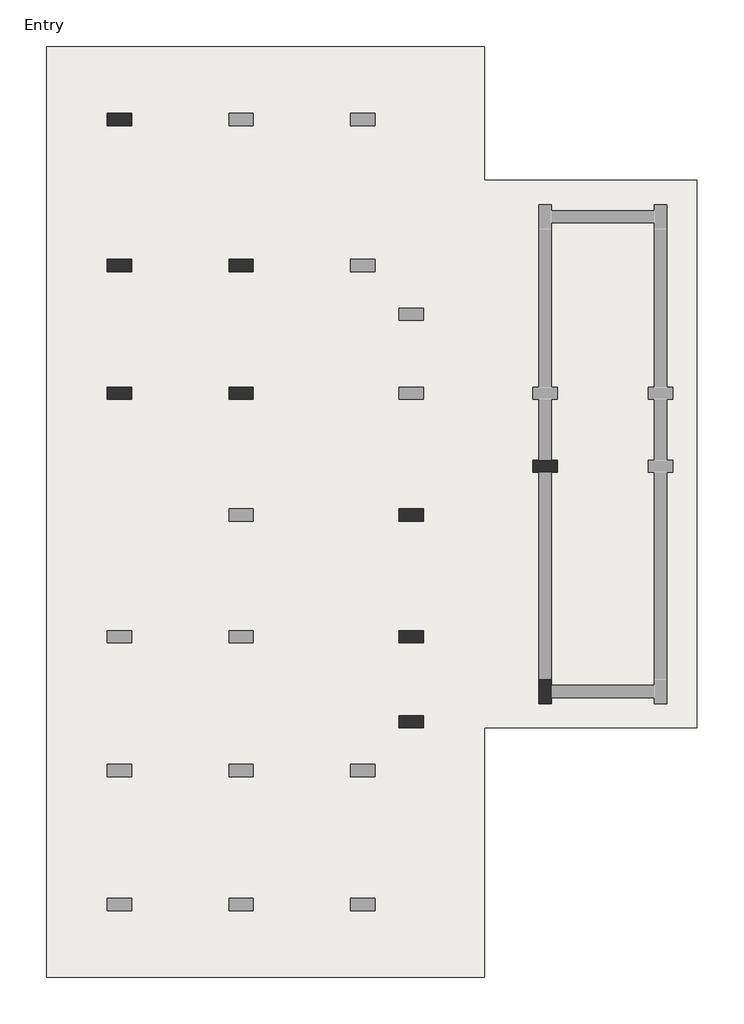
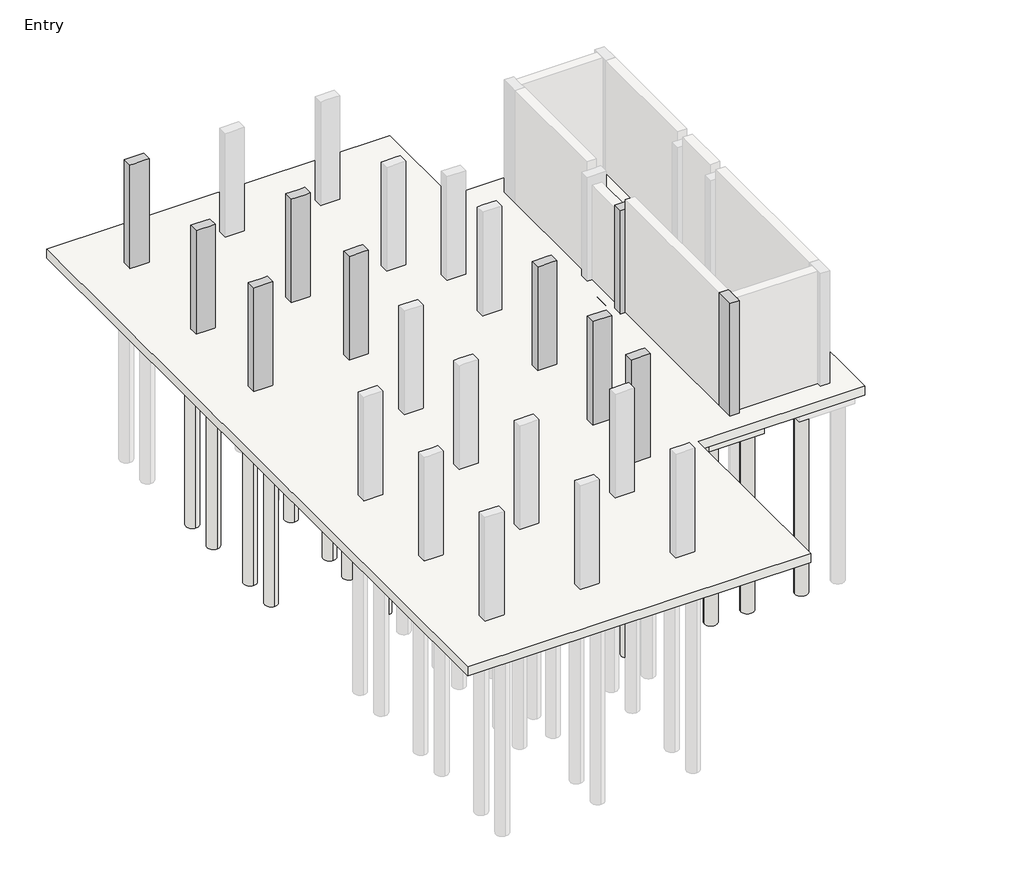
# One storey, part 2 of 3: 35 slabs, 10 columns, 1 footing.
"""IFC4 building model written with IfcOpenShell, lengths in millimetres."""

from ifc_helpers import new_model, si_unit, point, frame, frame_2d, origin, place, context, project, spatial, polyline, circle_curve, trimmed, segment, composite_curve, outline, extrude, faceted_brep, element, save

model = new_model("IFC4")

# Units and contexts
model_context = context("Model", 3, world=origin())
ifc_project = project(units=[si_unit("LENGTHUNIT", "METRE", prefix="MILLI")], contexts=[model_context])

# Site, building, storey
site = spatial("IfcSite", under=ifc_project)
building = spatial("IfcBuilding", under=site)
storey = spatial("IfcBuildingStorey", under=building, Name="Entry", Elevation=0.0)

# Columns
placement = place(None, origin())
element("IfcColumn", 1, ObjectType="Concrete-Rectangular-Column : 12 x 24", at=placement, inside=storey, context=model_context, shape_type="Brep", body=[
    faceted_brep([(-13471.1073204, 23769.0572372, 0.0), (-12861.5073204, 23769.0572372, 0.0), (-12861.5073204, 23464.2572372, 0.0), (-13471.1073204, 23464.2572372, 0.0), (-13471.1073204, 23769.0572372, 3505.2), (-12861.5073204, 23769.0572372, 3505.2), (-12861.5073204, 23769.0572372, 2895.6), (-12861.5073204, 23464.2572372, 3505.2), (-12861.5073204, 23464.2572372, 2895.6), (-13013.9073204, 23464.2572372, 3505.2), (-13318.7073204, 23464.2572372, 3505.2), (-13471.1073204, 23464.2572372, 3505.2)], [[[0, 1, 2, 3]], [[4, 5, 6, 1, 0]], [[5, 7, 8, 2, 1, 6]], [[7, 9, 10, 11, 3, 2, 8]], [[11, 4, 0, 3]], [[4, 11, 10, 9, 7, 5]]]),
])
element("IfcColumn", 2, ObjectType="Concrete-Rectangular-Column : 12 x 24", at=placement, inside=storey, context=model_context, shape_type="Brep", body=[
    faceted_brep([(-13471.1073204, 20111.4572372, 0.0), (-12861.5073204, 20111.4572372, 0.0), (-12861.5073204, 19806.6572372, 0.0), (-13471.1073204, 19806.6572372, 0.0), (-13471.1073204, 20111.4572372, 3505.2), (-13318.7073204, 20111.4572372, 3505.2), (-13013.9073204, 20111.4572372, 3505.2), (-12861.5073204, 20111.4572372, 3505.2), (-12861.5073204, 20111.4572372, 2895.6), (-12861.5073204, 19806.6572372, 3505.2), (-12861.5073204, 19806.6572372, 2895.6), (-13013.9073204, 19806.6572372, 3505.2), (-13318.7073204, 19806.6572372, 3505.2), (-13471.1073204, 19806.6572372, 3505.2)], [[[0, 1, 2, 3]], [[4, 5, 6, 7, 8, 1, 0]], [[7, 9, 10, 2, 1, 8]], [[9, 11, 12, 13, 3, 2, 10]], [[13, 4, 0, 3]], [[4, 13, 12, 11, 9, 7, 6, 5]]]),
])
element("IfcColumn", 3, ObjectType="Concrete-Rectangular-Column : 12 x 24", at=placement, inside=storey, context=model_context, shape_type="Brep", body=[
    faceted_brep([(-10423.1073204, 20111.4572372, 0.0), (-9813.5073204, 20111.4572372, 0.0), (-9813.5073204, 19806.6572372, 0.0), (-10423.1073204, 19806.6572372, 0.0), (-10423.1073204, 20111.4572372, 3505.2), (-10270.7073204, 20111.4572372, 3505.2), (-9965.9073204, 20111.4572372, 3505.2), (-9813.5073204, 20111.4572372, 3505.2), (-9813.5073204, 20111.4572372, 2895.6), (-10423.1073204, 20111.4572372, 2895.6), (-9813.5073204, 19806.6572372, 3505.2), (-9813.5073204, 19806.6572372, 2895.6), (-9965.9073204, 19806.6572372, 3505.2), (-10270.7073204, 19806.6572372, 3505.2), (-10423.1073204, 19806.6572372, 3505.2), (-10423.1073204, 19806.6572372, 2895.6)], [[[0, 1, 2, 3]], [[4, 5, 6, 7, 8, 1, 0, 9]], [[7, 10, 11, 2, 1, 8]], [[10, 12, 13, 14, 15, 3, 2, 11]], [[14, 4, 9, 0, 3, 15]], [[4, 14, 13, 12, 10, 7, 6, 5]]]),
])
element("IfcColumn", 4, ObjectType="Concrete-Rectangular-Column : 12 x 24", at=placement, inside=storey, context=model_context, shape_type="Brep", body=[
    faceted_brep([(-13471.1073204, 16911.0572372, 0.0), (-12861.5073204, 16911.0572372, 0.0), (-12861.5073204, 16606.2572372, 0.0), (-13471.1073204, 16606.2572372, 0.0), (-13471.1073204, 16911.0572372, 3505.2), (-13318.7073204, 16911.0572372, 3505.2), (-13013.9073204, 16911.0572372, 3505.2), (-12861.5073204, 16911.0572372, 3505.2), (-12861.5073204, 16911.0572372, 2895.6), (-12861.5073204, 16606.2572372, 3505.2), (-12861.5073204, 16606.2572372, 2895.6), (-13471.1073204, 16606.2572372, 3505.2)], [[[0, 1, 2, 3]], [[4, 5, 6, 7, 8, 1, 0]], [[7, 9, 10, 2, 1, 8]], [[9, 11, 3, 2, 10]], [[11, 4, 0, 3]], [[4, 11, 9, 7, 6, 5]]]),
])
element("IfcColumn", 5, ObjectType="Concrete-Rectangular-Column : 12 x 24", at=placement, inside=storey, context=model_context, shape_type="Brep", body=[
    faceted_brep([(-10423.1073204, 16911.0572372, 0.0), (-9813.5073204, 16911.0572372, 0.0), (-9813.5073204, 16606.2572372, 0.0), (-10423.1073204, 16606.2572372, 0.0), (-10423.1073204, 16911.0572372, 3505.2), (-10270.7073204, 16911.0572372, 3505.2), (-9965.9073204, 16911.0572372, 3505.2), (-9813.5073204, 16911.0572372, 3505.2), (-9813.5073204, 16911.0572372, 2895.6), (-10423.1073204, 16911.0572372, 2895.6), (-9813.5073204, 16606.2572372, 3505.2), (-9813.5073204, 16606.2572372, 2895.6), (-9965.9073204, 16606.2572372, 3505.2), (-10270.7073204, 16606.2572372, 3505.2), (-10423.1073204, 16606.2572372, 3505.2), (-10423.1073204, 16606.2572372, 2895.6)], [[[0, 1, 2, 3]], [[4, 5, 6, 7, 8, 1, 0, 9]], [[7, 10, 11, 2, 1, 8]], [[10, 12, 13, 14, 15, 3, 2, 11]], [[14, 4, 9, 0, 3, 15]], [[4, 14, 13, 12, 10, 7, 6, 5]]]),
])
element("IfcColumn", 6, ObjectType="Concrete-Rectangular-Column : 12 x 24", at=placement, inside=storey, context=model_context, shape_type="Brep", body=[
    faceted_brep([(-2803.8500241, 15082.2572372, 0.0), (-2651.4500241, 15082.2572372, 0.0), (-2346.6500241, 15082.2572372, 0.0), (-2194.2500241, 15082.2572372, 0.0), (-2194.2500241, 14777.4572372, 0.0), (-2346.6500241, 14777.4572372, 0.0), (-2651.4500241, 14777.4572372, 0.0), (-2803.8500241, 14777.4572372, 0.0), (-2803.8500241, 15082.2572372, 3505.2), (-2194.2500241, 15082.2572372, 3505.2), (-2194.2500241, 14777.4572372, 3505.2), (-2803.8500241, 14777.4572372, 3505.2)], [[[0, 1, 2, 3, 4, 5, 6, 7]], [[3, 2, 1, 0, 8, 9]], [[4, 3, 9, 10]], [[7, 6, 5, 4, 10, 11]], [[0, 7, 11, 8]], [[9, 8, 11, 10]]]),
])
element("IfcColumn", 7, ObjectType="Concrete-Rectangular-Column : 12 x 24", at=placement, inside=storey, context=model_context, shape_type="Brep", body=[
    faceted_brep([(-6156.6500241, 13863.0572372, 0.0), (-5547.0500241, 13863.0572372, 0.0), (-5547.0500241, 13558.2572372, 0.0), (-6156.6500241, 13558.2572372, 0.0), (-6156.6500241, 13863.0572372, 3505.2), (-6004.2500241, 13863.0572372, 3505.2), (-5699.4500241, 13863.0572372, 3505.2), (-5547.0500241, 13863.0572372, 3505.2), (-6156.6500241, 13863.0572372, 2895.6), (-5547.0500241, 13558.2572372, 3505.2), (-5699.4500241, 13558.2572372, 3505.2), (-6004.2500241, 13558.2572372, 3505.2), (-6156.6500241, 13558.2572372, 3505.2), (-6156.6500241, 13558.2572372, 2895.6)], [[[0, 1, 2, 3]], [[4, 5, 6, 7, 1, 0, 8]], [[7, 9, 2, 1]], [[9, 10, 11, 12, 13, 3, 2]], [[12, 4, 8, 0, 3, 13]], [[4, 12, 11, 10, 9, 7, 6, 5]]]),
])
element("IfcColumn", 8, ObjectType="Concrete-Rectangular-Column : 12 x 24", at=placement, inside=storey, context=model_context, shape_type="Brep", body=[
    faceted_brep([(-6156.6500241, 10815.0572372, 0.0), (-5547.0500241, 10815.0572372, 0.0), (-5547.0500241, 10510.2572372, 0.0), (-6156.6500241, 10510.2572372, 0.0), (-6156.6500241, 10815.0572372, 3505.2), (-6004.2500241, 10815.0572372, 3505.2), (-5699.4500241, 10815.0572372, 3505.2), (-5547.0500241, 10815.0572372, 3505.2), (-6156.6500241, 10815.0572372, 2895.6), (-5547.0500241, 10510.2572372, 3505.2), (-5699.4500241, 10510.2572372, 3505.2), (-6004.2500241, 10510.2572372, 3505.2), (-6156.6500241, 10510.2572372, 3505.2), (-6156.6500241, 10510.2572372, 2895.6)], [[[0, 1, 2, 3]], [[4, 5, 6, 7, 1, 0, 8]], [[7, 9, 2, 1]], [[9, 10, 11, 12, 13, 3, 2]], [[12, 4, 8, 0, 3, 13]], [[4, 12, 11, 10, 9, 7, 6, 5]]]),
])
element("IfcColumn", 9, ObjectType="Concrete-Rectangular-Column : 12 x 24", at=placement, inside=storey, context=model_context, shape_type="Brep", body=[
    faceted_brep([(-6156.6500241, 8681.4572372, 0.0), (-5547.0500241, 8681.4572372, 0.0), (-5547.0500241, 8376.6572372, 0.0), (-6156.6500241, 8376.6572372, 0.0), (-6156.6500241, 8681.4572372, 3505.2), (-6004.2500241, 8681.4572372, 3505.2), (-5699.4500241, 8681.4572372, 3505.2), (-5547.0500241, 8681.4572372, 3505.2), (-6156.6500241, 8681.4572372, 2895.6), (-5547.0500241, 8376.6572372, 3505.2), (-6156.6500241, 8376.6572372, 3505.2), (-6156.6500241, 8376.6572372, 2895.6)], [[[0, 1, 2, 3]], [[4, 5, 6, 7, 1, 0, 8]], [[7, 9, 2, 1]], [[9, 10, 11, 3, 2]], [[10, 4, 8, 0, 3, 11]], [[4, 10, 9, 7, 6, 5]]]),
])
element("IfcColumn", 10, ObjectType="Concrete-Rectangular-Column : 12 x 24", at=placement, inside=storey, context=model_context, shape_type="Brep", body=[
    faceted_brep([(-2346.6500241, 9595.8572372, 0.0), (-2346.6500241, 9443.4572372, 0.0), (-2346.6500241, 9138.6572372, 0.0), (-2346.6500241, 8986.2572372, 0.0), (-2651.4500241, 8986.2572372, 0.0), (-2651.4500241, 9595.8572372, 0.0), (-2346.6500241, 9595.8572372, 3810.0), (-2346.6500241, 9443.4572372, 3810.0), (-2346.6500241, 9138.6572372, 3810.0), (-2346.6500241, 8986.2572372, 3810.0), (-2651.4500241, 8986.2572372, 3810.0), (-2651.4500241, 9595.8572372, 3810.0)], [[[0, 1, 2, 3, 4, 5]], [[6, 7, 8, 9, 3, 2, 1, 0]], [[9, 10, 4, 3]], [[10, 11, 5, 4]], [[11, 6, 0, 5]], [[6, 11, 10, 9, 8, 7]]]),
])

# Footing
element("IfcFooting", 11, ObjectType="Bearing Footing - 36\" x 12\"", at=placement, inside=storey, context=model_context, shape_type="SweptSolid", body=[
    extrude(outline(polyline([(-2956.2500241, 16352.2572372), (-2041.8500241, 16352.2572372), (-2041.8500241, 15336.2572372), (-2956.2500241, 15336.2572372), (-2956.2500241, 16352.2572372)])), frame((0.0, 0.0, -304.8), z_axis=(0.0, 0.0, 1.0), x_axis=(1.0, 0.0, 0.0)), (0.0, 0.0, 1.0), 304.8),
])

# Slabs
element("IfcSlab", 12, ObjectType="12\" Foundation Slab", at=placement, inside=storey, context=model_context, shape_type="SweptSolid", body=[
    extrude(outline(polyline([(-4023.0500241, 25445.4572372), (-4023.0500241, 22092.6572372), (1309.1860546, 22092.6572372), (1309.1860546, 8376.6572372), (-4023.0500241, 8376.6572372), (-4023.0500241, 2128.2572372), (-14995.1073204, 2128.2572372), (-14995.1073204, 25445.4572372), (-4023.0500241, 25445.4572372)])), frame((0.0, 0.0, -304.8), z_axis=(0.0, 0.0, 1.0), x_axis=(1.0, 0.0, 0.0)), (0.0, 0.0, 1.0), 304.8),
])
element("IfcSlab", 13, ObjectType="Pile Cap-2 Pile : 31\"x61\"x35\"", at=placement, inside=storey, context=model_context, shape_type="SweptSolid", body=[
    extrude(outline(polyline([(-13572.7073204, 24505.6572372), (-12759.9073204, 24505.6572372), (-12759.9073204, 22727.6572372), (-13572.7073204, 22727.6572372), (-13572.7073204, 24505.6572372)])), frame((0.0, 0.0, -889.0), z_axis=(0.0, 0.0, 1.0), x_axis=(1.0, 0.0, 0.0)), (0.0, 0.0, 1.0), 584.2),
])
element("IfcSlab", 14, ObjectType="Pile Cap-2 Pile : 31\"x61\"x35\"", at=placement, inside=storey, context=model_context, shape_type="SweptSolid", body=[
    extrude(outline(polyline([(-13572.7073204, 20848.0572372), (-12759.9073204, 20848.0572372), (-12759.9073204, 19070.0572372), (-13572.7073204, 19070.0572372), (-13572.7073204, 20848.0572372)])), frame((0.0, 0.0, -889.0), z_axis=(0.0, 0.0, 1.0), x_axis=(1.0, 0.0, 0.0)), (0.0, 0.0, 1.0), 584.2),
])
element("IfcSlab", 15, ObjectType="Pile Cap-2 Pile : 31\"x61\"x35\"", at=placement, inside=storey, context=model_context, shape_type="SweptSolid", body=[
    extrude(outline(polyline([(-13572.7073204, 17647.6572372), (-12759.9073204, 17647.6572372), (-12759.9073204, 15869.6572372), (-13572.7073204, 15869.6572372), (-13572.7073204, 17647.6572372)])), frame((0.0, 0.0, -889.0), z_axis=(0.0, 0.0, 1.0), x_axis=(1.0, 0.0, 0.0)), (0.0, 0.0, 1.0), 584.2),
])
element("IfcSlab", 16, ObjectType="Pile Cap-2 Pile : 31\"x61\"x35\"", at=placement, inside=storey, context=model_context, shape_type="SweptSolid", body=[
    extrude(outline(polyline([(-6258.2500241, 14599.6572372), (-5445.4500241, 14599.6572372), (-5445.4500241, 12821.6572372), (-6258.2500241, 12821.6572372), (-6258.2500241, 14599.6572372)])), frame((0.0, 0.0, -889.0), z_axis=(0.0, 0.0, 1.0), x_axis=(1.0, 0.0, 0.0)), (0.0, 0.0, 1.0), 584.2),
])
element("IfcSlab", 17, ObjectType="Pile Cap-2 Pile : 31\"x61\"x35\"", at=placement, inside=storey, context=model_context, shape_type="SweptSolid", body=[
    extrude(outline(polyline([(-6258.2500241, 11551.6572372), (-5445.4500241, 11551.6572372), (-5445.4500241, 9773.6572372), (-6258.2500241, 9773.6572372), (-6258.2500241, 11551.6572372)])), frame((0.0, 0.0, -889.0), z_axis=(0.0, 0.0, 1.0), x_axis=(1.0, 0.0, 0.0)), (0.0, 0.0, 1.0), 584.2),
])
element("IfcSlab", 18, ObjectType="Pile Cap-2 Pile : 31\"x61\"x35\"", at=placement, inside=storey, context=model_context, shape_type="SweptSolid", body=[
    extrude(outline(polyline([(-3388.0500241, 14523.4572372), (-3388.0500241, 15336.2572372), (-1610.0500241, 15336.2572372), (-1610.0500241, 14523.4572372), (-3388.0500241, 14523.4572372)])), frame((0.0, 0.0, -889.0), z_axis=(0.0, 0.0, 1.0), x_axis=(1.0, 0.0, 0.0)), (0.0, 0.0, 1.0), 584.2),
])
element("IfcSlab", 19, ObjectType="Pile Cap-2 Pile : 31\"x61\"x35\"", at=placement, inside=storey, context=model_context, shape_type="SweptSolid", body=[
    extrude(outline(polyline([(-1610.0500241, 9697.4572372), (-1610.0500241, 8884.6572372), (-3388.0500241, 8884.6572372), (-3388.0500241, 9697.4572372), (-1610.0500241, 9697.4572372)])), frame((0.0, 0.0, -889.0), z_axis=(0.0, 0.0, 1.0), x_axis=(1.0, 0.0, 0.0)), (0.0, 0.0, 1.0), 584.2),
])
element("IfcSlab", 20, ObjectType="Pile Cap-2 Pile : 31\"x61\"x35\"", at=placement, inside=storey, context=model_context, shape_type="SweptSolid", body=[
    extrude(outline(polyline([(-6258.2500241, 9418.0572372), (-5445.4500241, 9418.0572372), (-5445.4500241, 7640.0572372), (-6258.2500241, 7640.0572372), (-6258.2500241, 9418.0572372)])), frame((0.0, 0.0, -889.0), z_axis=(0.0, 0.0, 1.0), x_axis=(1.0, 0.0, 0.0)), (0.0, 0.0, 1.0), 584.2),
])
element("IfcSlab", 21, ObjectType="Pile Cap-4 Pile : 72\"x72\"x35\"", at=placement, inside=storey, context=model_context, shape_type="SweptSolid", body=[
    extrude(outline(polyline([(-11032.7073204, 20873.4572372), (-9203.9073204, 20873.4572372), (-9203.9073204, 19044.6572372), (-11032.7073204, 19044.6572372), (-11032.7073204, 20873.4572372)])), frame((0.0, 0.0, -889.0), z_axis=(0.0, 0.0, 1.0), x_axis=(1.0, 0.0, 0.0)), (0.0, 0.0, 1.0), 584.2),
])
element("IfcSlab", 22, ObjectType="Pile Cap-4 Pile : 72\"x72\"x35\"", at=placement, inside=storey, context=model_context, shape_type="SweptSolid", body=[
    extrude(outline(polyline([(-11032.7073204, 17673.0572372), (-9203.9073204, 17673.0572372), (-9203.9073204, 15844.2572372), (-11032.7073204, 15844.2572372), (-11032.7073204, 17673.0572372)])), frame((0.0, 0.0, -889.0), z_axis=(0.0, 0.0, 1.0), x_axis=(1.0, 0.0, 0.0)), (0.0, 0.0, 1.0), 584.2),
])
element("IfcSlab", 23, ObjectType="Pile-Steel Pipe : 16\" Diameter", at=placement, inside=storey, context=model_context, shape_type="SweptSolid", body=[
    extrude(outline(composite_curve([segment(trimmed(circle_curve(frame_2d((-10651.7073204, 19425.6572372)), 203.2), [point((-10651.7073204, 19222.4572372))], [point((-10651.7073204, 19628.8572372))], False, "CARTESIAN"), True, "CONTINUOUS"), segment(trimmed(circle_curve(frame_2d((-10651.7073204, 19425.6572372)), 203.2), [point((-10651.7073204, 19628.8572372))], [point((-10651.7073204, 19222.4572372))], False, "CARTESIAN"), True, "CONTINUOUS")], self_intersect=False)), frame((0.0, 0.0, -6985.0), z_axis=(0.0, 0.0, 1.0), x_axis=(1.0, 0.0, 0.0)), (0.0, 0.0, 1.0), 6096.0),
])
element("IfcSlab", 24, ObjectType="Pile-Steel Pipe : 16\" Diameter", at=placement, inside=storey, context=model_context, shape_type="SweptSolid", body=[
    extrude(outline(composite_curve([segment(trimmed(circle_curve(frame_2d((-9584.9073204, 19425.6572372)), 203.2), [point((-9584.9073204, 19222.4572372))], [point((-9584.9073204, 19628.8572372))], False, "CARTESIAN"), True, "CONTINUOUS"), segment(trimmed(circle_curve(frame_2d((-9584.9073204, 19425.6572372)), 203.2), [point((-9584.9073204, 19628.8572372))], [point((-9584.9073204, 19222.4572372))], False, "CARTESIAN"), True, "CONTINUOUS")], self_intersect=False)), frame((0.0, 0.0, -6985.0), z_axis=(0.0, 0.0, 1.0), x_axis=(1.0, 0.0, 0.0)), (0.0, 0.0, 1.0), 6096.0),
])
element("IfcSlab", 25, ObjectType="Pile-Steel Pipe : 16\" Diameter", at=placement, inside=storey, context=model_context, shape_type="SweptSolid", body=[
    extrude(outline(composite_curve([segment(trimmed(circle_curve(frame_2d((-10651.7073204, 16225.2572372)), 203.2), [point((-10651.7073204, 16022.0572372))], [point((-10651.7073204, 16428.4572372))], False, "CARTESIAN"), True, "CONTINUOUS"), segment(trimmed(circle_curve(frame_2d((-10651.7073204, 16225.2572372)), 203.2), [point((-10651.7073204, 16428.4572372))], [point((-10651.7073204, 16022.0572372))], False, "CARTESIAN"), True, "CONTINUOUS")], self_intersect=False)), frame((0.0, 0.0, -6985.0), z_axis=(0.0, 0.0, 1.0), x_axis=(1.0, 0.0, 0.0)), (0.0, 0.0, 1.0), 6096.0),
])
element("IfcSlab", 26, ObjectType="Pile-Steel Pipe : 16\" Diameter", at=placement, inside=storey, context=model_context, shape_type="SweptSolid", body=[
    extrude(outline(composite_curve([segment(trimmed(circle_curve(frame_2d((-9584.9073204, 16225.2572372)), 203.2), [point((-9584.9073204, 16022.0572372))], [point((-9584.9073204, 16428.4572372))], False, "CARTESIAN"), True, "CONTINUOUS"), segment(trimmed(circle_curve(frame_2d((-9584.9073204, 16225.2572372)), 203.2), [point((-9584.9073204, 16428.4572372))], [point((-9584.9073204, 16022.0572372))], False, "CARTESIAN"), True, "CONTINUOUS")], self_intersect=False)), frame((0.0, 0.0, -6985.0), z_axis=(0.0, 0.0, 1.0), x_axis=(1.0, 0.0, 0.0)), (0.0, 0.0, 1.0), 6096.0),
])
element("IfcSlab", 27, ObjectType="Pile-Steel Pipe : 16\" Diameter", at=placement, inside=storey, context=model_context, shape_type="SweptSolid", body=[
    extrude(outline(composite_curve([segment(trimmed(circle_curve(frame_2d((-9584.9073204, 17292.0572372)), 203.2), [point((-9584.9073204, 17088.8572372))], [point((-9584.9073204, 17495.2572372))], False, "CARTESIAN"), True, "CONTINUOUS"), segment(trimmed(circle_curve(frame_2d((-9584.9073204, 17292.0572372)), 203.2), [point((-9584.9073204, 17495.2572372))], [point((-9584.9073204, 17088.8572372))], False, "CARTESIAN"), True, "CONTINUOUS")], self_intersect=False)), frame((0.0, 0.0, -6985.0), z_axis=(0.0, 0.0, 1.0), x_axis=(1.0, 0.0, 0.0)), (0.0, 0.0, 1.0), 6096.0),
])
element("IfcSlab", 28, ObjectType="Pile-Steel Pipe : 16\" Diameter", at=placement, inside=storey, context=model_context, shape_type="SweptSolid", body=[
    extrude(outline(composite_curve([segment(trimmed(circle_curve(frame_2d((-10651.7073204, 17292.0572372)), 203.2), [point((-10651.7073204, 17088.8572372))], [point((-10651.7073204, 17495.2572372))], False, "CARTESIAN"), True, "CONTINUOUS"), segment(trimmed(circle_curve(frame_2d((-10651.7073204, 17292.0572372)), 203.2), [point((-10651.7073204, 17495.2572372))], [point((-10651.7073204, 17088.8572372))], False, "CARTESIAN"), True, "CONTINUOUS")], self_intersect=False)), frame((0.0, 0.0, -6985.0), z_axis=(0.0, 0.0, 1.0), x_axis=(1.0, 0.0, 0.0)), (0.0, 0.0, 1.0), 6096.0),
])
element("IfcSlab", 29, ObjectType="Pile-Steel Pipe : 16\" Diameter", at=placement, inside=storey, context=model_context, shape_type="SweptSolid", body=[
    extrude(outline(composite_curve([segment(trimmed(circle_curve(frame_2d((-9584.9073204, 13177.2572372)), 203.2), [point((-9584.9073204, 12974.0572372))], [point((-9584.9073204, 13380.4572372))], False, "CARTESIAN"), True, "CONTINUOUS"), segment(trimmed(circle_curve(frame_2d((-9584.9073204, 13177.2572372)), 203.2), [point((-9584.9073204, 13380.4572372))], [point((-9584.9073204, 12974.0572372))], False, "CARTESIAN"), True, "CONTINUOUS")], self_intersect=False)), frame((0.0, 0.0, -6985.0), z_axis=(0.0, 0.0, 1.0), x_axis=(1.0, 0.0, 0.0)), (0.0, 0.0, 1.0), 6096.0),
])
element("IfcSlab", 30, ObjectType="Pile-Steel Pipe : 16\" Diameter", at=placement, inside=storey, context=model_context, shape_type="SweptSolid", body=[
    extrude(outline(composite_curve([segment(trimmed(circle_curve(frame_2d((-9584.9073204, 14244.0572372)), 203.2), [point((-9584.9073204, 14040.8572372))], [point((-9584.9073204, 14447.2572372))], False, "CARTESIAN"), True, "CONTINUOUS"), segment(trimmed(circle_curve(frame_2d((-9584.9073204, 14244.0572372)), 203.2), [point((-9584.9073204, 14447.2572372))], [point((-9584.9073204, 14040.8572372))], False, "CARTESIAN"), True, "CONTINUOUS")], self_intersect=False)), frame((0.0, 0.0, -6985.0), z_axis=(0.0, 0.0, 1.0), x_axis=(1.0, 0.0, 0.0)), (0.0, 0.0, 1.0), 6096.0),
])
element("IfcSlab", 31, ObjectType="Pile-Steel Pipe : 16\" Diameter", at=placement, inside=storey, context=model_context, shape_type="SweptSolid", body=[
    extrude(outline(composite_curve([segment(trimmed(circle_curve(frame_2d((-10651.7073204, 14244.0572372)), 203.2), [point((-10651.7073204, 14040.8572372))], [point((-10651.7073204, 14447.2572372))], False, "CARTESIAN"), True, "CONTINUOUS"), segment(trimmed(circle_curve(frame_2d((-10651.7073204, 14244.0572372)), 203.2), [point((-10651.7073204, 14447.2572372))], [point((-10651.7073204, 14040.8572372))], False, "CARTESIAN"), True, "CONTINUOUS")], self_intersect=False)), frame((0.0, 0.0, -6985.0), z_axis=(0.0, 0.0, 1.0), x_axis=(1.0, 0.0, 0.0)), (0.0, 0.0, 1.0), 6096.0),
])
element("IfcSlab", 32, ObjectType="Pile-Steel Pipe : 16\" Diameter", at=placement, inside=storey, context=model_context, shape_type="SweptSolid", body=[
    extrude(outline(composite_curve([segment(trimmed(circle_curve(frame_2d((-13166.3073204, 19374.8572372)), 203.2), [point((-13166.3073204, 19171.6572372))], [point((-13166.3073204, 19578.0572372))], False, "CARTESIAN"), True, "CONTINUOUS"), segment(trimmed(circle_curve(frame_2d((-13166.3073204, 19374.8572372)), 203.2), [point((-13166.3073204, 19578.0572372))], [point((-13166.3073204, 19171.6572372))], False, "CARTESIAN"), True, "CONTINUOUS")], self_intersect=False)), frame((0.0, 0.0, -6985.0), z_axis=(0.0, 0.0, 1.0), x_axis=(1.0, 0.0, 0.0)), (0.0, 0.0, 1.0), 6096.0),
])
element("IfcSlab", 33, ObjectType="Pile-Steel Pipe : 16\" Diameter", at=placement, inside=storey, context=model_context, shape_type="SweptSolid", body=[
    extrude(outline(composite_curve([segment(trimmed(circle_curve(frame_2d((-13166.3073204, 20543.2572372)), 203.2), [point((-13166.3073204, 20340.0572372))], [point((-13166.3073204, 20746.4572372))], False, "CARTESIAN"), True, "CONTINUOUS"), segment(trimmed(circle_curve(frame_2d((-13166.3073204, 20543.2572372)), 203.2), [point((-13166.3073204, 20746.4572372))], [point((-13166.3073204, 20340.0572372))], False, "CARTESIAN"), True, "CONTINUOUS")], self_intersect=False)), frame((0.0, 0.0, -6985.0), z_axis=(0.0, 0.0, 1.0), x_axis=(1.0, 0.0, 0.0)), (0.0, 0.0, 1.0), 6096.0),
])
element("IfcSlab", 34, ObjectType="Pile-Steel Pipe : 16\" Diameter", at=placement, inside=storey, context=model_context, shape_type="SweptSolid", body=[
    extrude(outline(composite_curve([segment(trimmed(circle_curve(frame_2d((-13166.3073204, 16174.4572372)), 203.2), [point((-13166.3073204, 15971.2572372))], [point((-13166.3073204, 16377.6572372))], False, "CARTESIAN"), True, "CONTINUOUS"), segment(trimmed(circle_curve(frame_2d((-13166.3073204, 16174.4572372)), 203.2), [point((-13166.3073204, 16377.6572372))], [point((-13166.3073204, 15971.2572372))], False, "CARTESIAN"), True, "CONTINUOUS")], self_intersect=False)), frame((0.0, 0.0, -6985.0), z_axis=(0.0, 0.0, 1.0), x_axis=(1.0, 0.0, 0.0)), (0.0, 0.0, 1.0), 6096.0),
])
element("IfcSlab", 35, ObjectType="Pile-Steel Pipe : 16\" Diameter", at=placement, inside=storey, context=model_context, shape_type="SweptSolid", body=[
    extrude(outline(composite_curve([segment(trimmed(circle_curve(frame_2d((-13166.3073204, 17342.8572372)), 203.2), [point((-13166.3073204, 17139.6572372))], [point((-13166.3073204, 17546.0572372))], False, "CARTESIAN"), True, "CONTINUOUS"), segment(trimmed(circle_curve(frame_2d((-13166.3073204, 17342.8572372)), 203.2), [point((-13166.3073204, 17546.0572372))], [point((-13166.3073204, 17139.6572372))], False, "CARTESIAN"), True, "CONTINUOUS")], self_intersect=False)), frame((0.0, 0.0, -6985.0), z_axis=(0.0, 0.0, 1.0), x_axis=(1.0, 0.0, 0.0)), (0.0, 0.0, 1.0), 6096.0),
])
element("IfcSlab", 36, ObjectType="Pile-Steel Pipe : 16\" Diameter", at=placement, inside=storey, context=model_context, shape_type="SweptSolid", body=[
    extrude(outline(composite_curve([segment(trimmed(circle_curve(frame_2d((-5851.8500241, 13126.4572372)), 203.2), [point((-5851.8500241, 12923.2572372))], [point((-5851.8500241, 13329.6572372))], False, "CARTESIAN"), True, "CONTINUOUS"), segment(trimmed(circle_curve(frame_2d((-5851.8500241, 13126.4572372)), 203.2), [point((-5851.8500241, 13329.6572372))], [point((-5851.8500241, 12923.2572372))], False, "CARTESIAN"), True, "CONTINUOUS")], self_intersect=False)), frame((0.0, 0.0, -6985.0), z_axis=(0.0, 0.0, 1.0), x_axis=(1.0, 0.0, 0.0)), (0.0, 0.0, 1.0), 6096.0),
])
element("IfcSlab", 37, ObjectType="Pile-Steel Pipe : 16\" Diameter", at=placement, inside=storey, context=model_context, shape_type="SweptSolid", body=[
    extrude(outline(composite_curve([segment(trimmed(circle_curve(frame_2d((-5851.8500241, 14294.8572372)), 203.2), [point((-5851.8500241, 14091.6572372))], [point((-5851.8500241, 14498.0572372))], False, "CARTESIAN"), True, "CONTINUOUS"), segment(trimmed(circle_curve(frame_2d((-5851.8500241, 14294.8572372)), 203.2), [point((-5851.8500241, 14498.0572372))], [point((-5851.8500241, 14091.6572372))], False, "CARTESIAN"), True, "CONTINUOUS")], self_intersect=False)), frame((0.0, 0.0, -6985.0), z_axis=(0.0, 0.0, 1.0), x_axis=(1.0, 0.0, 0.0)), (0.0, 0.0, 1.0), 6096.0),
])
element("IfcSlab", 38, ObjectType="Pile-Steel Pipe : 16\" Diameter", at=placement, inside=storey, context=model_context, shape_type="SweptSolid", body=[
    extrude(outline(composite_curve([segment(trimmed(circle_curve(frame_2d((-5851.8500241, 10078.4572372)), 203.2), [point((-5851.8500241, 9875.2572372))], [point((-5851.8500241, 10281.6572372))], False, "CARTESIAN"), True, "CONTINUOUS"), segment(trimmed(circle_curve(frame_2d((-5851.8500241, 10078.4572372)), 203.2), [point((-5851.8500241, 10281.6572372))], [point((-5851.8500241, 9875.2572372))], False, "CARTESIAN"), True, "CONTINUOUS")], self_intersect=False)), frame((0.0, 0.0, -6985.0), z_axis=(0.0, 0.0, 1.0), x_axis=(1.0, 0.0, 0.0)), (0.0, 0.0, 1.0), 6096.0),
])
element("IfcSlab", 39, ObjectType="Pile-Steel Pipe : 16\" Diameter", at=placement, inside=storey, context=model_context, shape_type="SweptSolid", body=[
    extrude(outline(composite_curve([segment(trimmed(circle_curve(frame_2d((-5851.8500241, 11246.8572372)), 203.2), [point((-5851.8500241, 11043.6572372))], [point((-5851.8500241, 11450.0572372))], False, "CARTESIAN"), True, "CONTINUOUS"), segment(trimmed(circle_curve(frame_2d((-5851.8500241, 11246.8572372)), 203.2), [point((-5851.8500241, 11450.0572372))], [point((-5851.8500241, 11043.6572372))], False, "CARTESIAN"), True, "CONTINUOUS")], self_intersect=False)), frame((0.0, 0.0, -6985.0), z_axis=(0.0, 0.0, 1.0), x_axis=(1.0, 0.0, 0.0)), (0.0, 0.0, 1.0), 6096.0),
])
element("IfcSlab", 40, ObjectType="Pile-Steel Pipe : 16\" Diameter", at=placement, inside=storey, context=model_context, shape_type="SweptSolid", body=[
    extrude(outline(composite_curve([segment(trimmed(circle_curve(frame_2d((-189.4139454, 14929.8572372)), 203.2), [point((13.7860546, 14929.8572372))], [point((-392.6139454, 14929.8572372))], False, "CARTESIAN"), True, "CONTINUOUS"), segment(trimmed(circle_curve(frame_2d((-189.4139454, 14929.8572372)), 203.2), [point((-392.6139454, 14929.8572372))], [point((13.7860546, 14929.8572372))], False, "CARTESIAN"), True, "CONTINUOUS")], self_intersect=False)), frame((0.0, 0.0, -6985.0), z_axis=(0.0, 0.0, 1.0), x_axis=(1.0, 0.0, 0.0)), (0.0, 0.0, 1.0), 6096.0),
])
element("IfcSlab", 41, ObjectType="Pile-Steel Pipe : 16\" Diameter", at=placement, inside=storey, context=model_context, shape_type="SweptSolid", body=[
    extrude(outline(composite_curve([segment(trimmed(circle_curve(frame_2d((-1914.8500241, 14929.8572372)), 203.2), [point((-1711.6500241, 14929.8572372))], [point((-2118.0500241, 14929.8572372))], False, "CARTESIAN"), True, "CONTINUOUS"), segment(trimmed(circle_curve(frame_2d((-1914.8500241, 14929.8572372)), 203.2), [point((-2118.0500241, 14929.8572372))], [point((-1711.6500241, 14929.8572372))], False, "CARTESIAN"), True, "CONTINUOUS")], self_intersect=False)), frame((0.0, 0.0, -6985.0), z_axis=(0.0, 0.0, 1.0), x_axis=(1.0, 0.0, 0.0)), (0.0, 0.0, 1.0), 6096.0),
])
element("IfcSlab", 42, ObjectType="Pile-Steel Pipe : 16\" Diameter", at=placement, inside=storey, context=model_context, shape_type="SweptSolid", body=[
    extrude(outline(composite_curve([segment(trimmed(circle_curve(frame_2d((-3083.2500241, 14929.8572372)), 203.2), [point((-2880.0500241, 14929.8572372))], [point((-3286.4500241, 14929.8572372))], False, "CARTESIAN"), True, "CONTINUOUS"), segment(trimmed(circle_curve(frame_2d((-3083.2500241, 14929.8572372)), 203.2), [point((-3286.4500241, 14929.8572372))], [point((-2880.0500241, 14929.8572372))], False, "CARTESIAN"), True, "CONTINUOUS")], self_intersect=False)), frame((0.0, 0.0, -6985.0), z_axis=(0.0, 0.0, 1.0), x_axis=(1.0, 0.0, 0.0)), (0.0, 0.0, 1.0), 6096.0),
])
element("IfcSlab", 43, ObjectType="Pile-Steel Pipe : 16\" Diameter", at=placement, inside=storey, context=model_context, shape_type="SweptSolid", body=[
    extrude(outline(composite_curve([segment(trimmed(circle_curve(frame_2d((-3083.2500241, 9291.0572372)), 203.2), [point((-3286.4500241, 9291.0572372))], [point((-2880.0500241, 9291.0572372))], False, "CARTESIAN"), True, "CONTINUOUS"), segment(trimmed(circle_curve(frame_2d((-3083.2500241, 9291.0572372)), 203.2), [point((-2880.0500241, 9291.0572372))], [point((-3286.4500241, 9291.0572372))], False, "CARTESIAN"), True, "CONTINUOUS")], self_intersect=False)), frame((0.0, 0.0, -6985.0), z_axis=(0.0, 0.0, 1.0), x_axis=(1.0, 0.0, 0.0)), (0.0, 0.0, 1.0), 6096.0),
])
element("IfcSlab", 44, ObjectType="Pile-Steel Pipe : 16\" Diameter", at=placement, inside=storey, context=model_context, shape_type="SweptSolid", body=[
    extrude(outline(composite_curve([segment(trimmed(circle_curve(frame_2d((-1914.8500241, 9291.0572372)), 203.2), [point((-2118.0500241, 9291.0572372))], [point((-1711.6500241, 9291.0572372))], False, "CARTESIAN"), True, "CONTINUOUS"), segment(trimmed(circle_curve(frame_2d((-1914.8500241, 9291.0572372)), 203.2), [point((-1711.6500241, 9291.0572372))], [point((-2118.0500241, 9291.0572372))], False, "CARTESIAN"), True, "CONTINUOUS")], self_intersect=False)), frame((0.0, 0.0, -6985.0), z_axis=(0.0, 0.0, 1.0), x_axis=(1.0, 0.0, 0.0)), (0.0, 0.0, 1.0), 6096.0),
])
element("IfcSlab", 45, ObjectType="Pile-Steel Pipe : 16\" Diameter", at=placement, inside=storey, context=model_context, shape_type="SweptSolid", body=[
    extrude(outline(composite_curve([segment(trimmed(circle_curve(frame_2d((-189.4139454, 9291.0572372)), 203.2), [point((-392.6139454, 9291.0572372))], [point((13.7860546, 9291.0572372))], False, "CARTESIAN"), True, "CONTINUOUS"), segment(trimmed(circle_curve(frame_2d((-189.4139454, 9291.0572372)), 203.2), [point((13.7860546, 9291.0572372))], [point((-392.6139454, 9291.0572372))], False, "CARTESIAN"), True, "CONTINUOUS")], self_intersect=False)), frame((0.0, 0.0, -6985.0), z_axis=(0.0, 0.0, 1.0), x_axis=(1.0, 0.0, 0.0)), (0.0, 0.0, 1.0), 6096.0),
])
element("IfcSlab", 46, ObjectType="Pile-Steel Pipe : 16\" Diameter", at=placement, inside=storey, context=model_context, shape_type="SweptSolid", body=[
    extrude(outline(composite_curve([segment(trimmed(circle_curve(frame_2d((-5851.8500241, 9113.2572372)), 203.2), [point((-5851.8500241, 8910.0572372))], [point((-5851.8500241, 9316.4572372))], False, "CARTESIAN"), True, "CONTINUOUS"), segment(trimmed(circle_curve(frame_2d((-5851.8500241, 9113.2572372)), 203.2), [point((-5851.8500241, 9316.4572372))], [point((-5851.8500241, 8910.0572372))], False, "CARTESIAN"), True, "CONTINUOUS")], self_intersect=False)), frame((0.0, 0.0, -6985.0), z_axis=(0.0, 0.0, 1.0), x_axis=(1.0, 0.0, 0.0)), (0.0, 0.0, 1.0), 6096.0),
])

save(model, "model.ifc")
